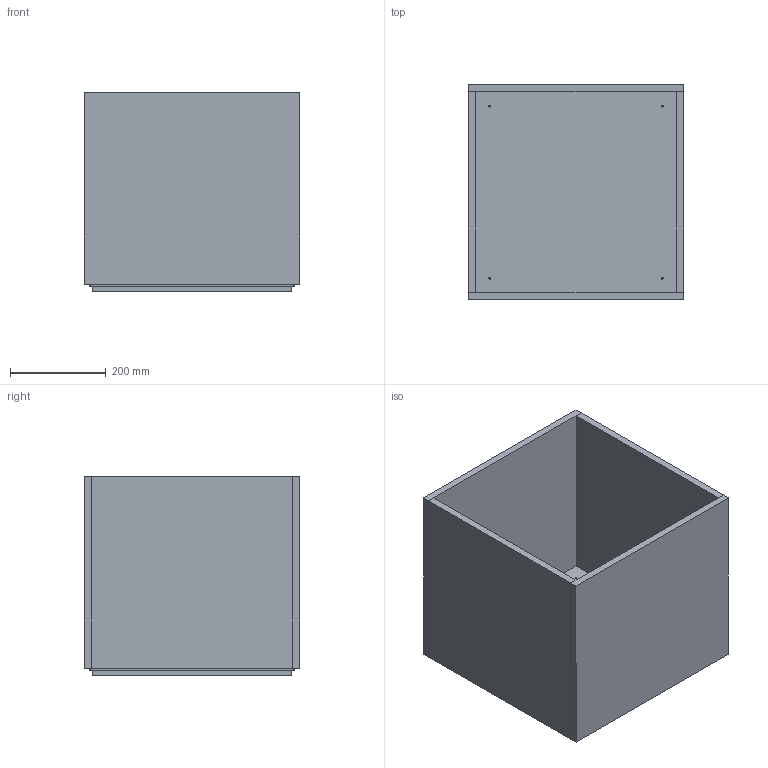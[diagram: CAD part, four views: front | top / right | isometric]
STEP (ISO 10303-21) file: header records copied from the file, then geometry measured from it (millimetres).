
FILE_DESCRIPTION(/* description */ (''),/* implementation_level */ '2;1');
FILE_NAME(/* name */ 'Square',/* time_stamp */ '2026-06-15T16:47:57+12:00',/* author */ (''),/* organization */ (''),/* preprocessor_version */ 'ST-DEVELOPER v19.2',/* originating_system */ 'Rhino 8.31',/* authorisation */ '');
FILE_SCHEMA (('CONFIG_CONTROL_DESIGN'));
Length unit declared in the file: millimetre
Products named in the file (1): Document
Bounding box: 450 x 450 x 415 mm (x, y, z)
Volume: 3993430.1 mm3; surface area: 2092214.4 mm2
Topology: 9 solids, 49 shells, 206 faces, 620 edges, 472 vertices
Faces by surface type: plane 126, cylinder 80
Entity records: 7094 total; most frequent: CARTESIAN_POINT 2153, ORIENTED_EDGE 1040, EDGE_CURVE 620, DIRECTION 564, VERTEX_POINT 472, B_SPLINE_CURVE_WITH_KNOTS 444, AXIS2_PLACEMENT_3D 385, EDGE_LOOP 234
